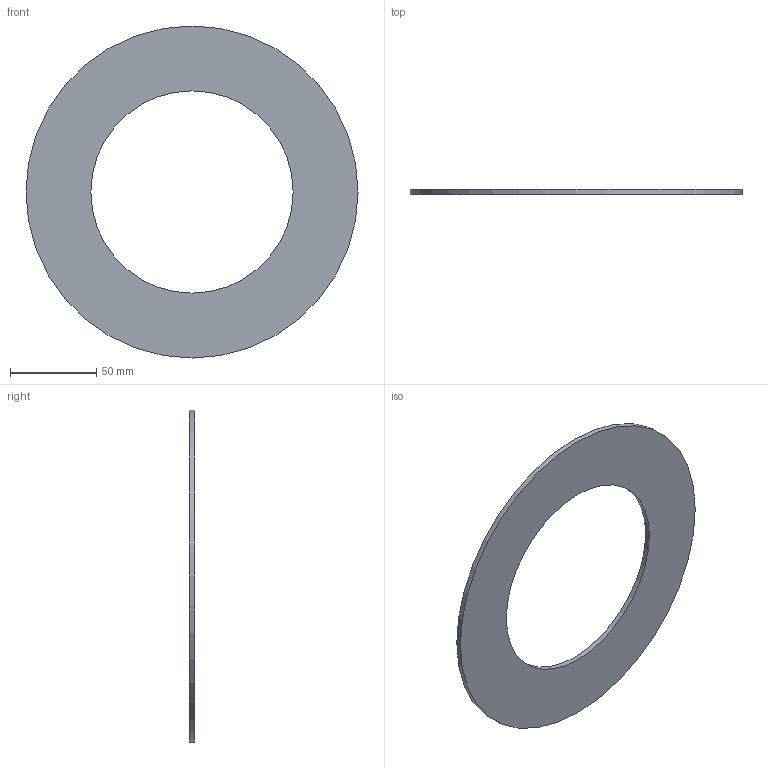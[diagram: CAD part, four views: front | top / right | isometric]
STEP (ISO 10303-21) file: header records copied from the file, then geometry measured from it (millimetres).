
FILE_DESCRIPTION(/* description */ ('Unknown'),/* implementation_level */ '2;1');
FILE_NAME(/* name */ 'GUA.140C',/* time_stamp */ '2021-04-01T12:20:53+02:00',/* author */ ('Unknown'),/* organization */ ('Unknown'),/* preprocessor_version */ 'ST-DEVELOPER v16.7',/* originating_system */ 'Solid Edge',/* authorisation */ 'Unknown');
FILE_SCHEMA (('AUTOMOTIVE_DESIGN {1 0 10303 214 3 1 1}'));
Length unit declared in the file: millimetre
Products named in the file (1): GUA.140C
Bounding box: 192 x 3 x 192 mm (x, y, z)
Volume: 54604.8 mm3; surface area: 39315.5 mm2
Topology: 1 solids, 1 shells, 4 faces, 6 edges, 4 vertices
Faces by surface type: cylinder 2, plane 2
Full cylindrical faces by diameter (mm): 117 x1, 192 x1
Entity records: 118 total; most frequent: DIRECTION 18, CARTESIAN_POINT 13, AXIS2_PLACEMENT_3D 9, ORIENTED_EDGE 8, EDGE_LOOP 8, FACE_BOUND 8, EDGE_CURVE 4, VERTEX_POINT 4
